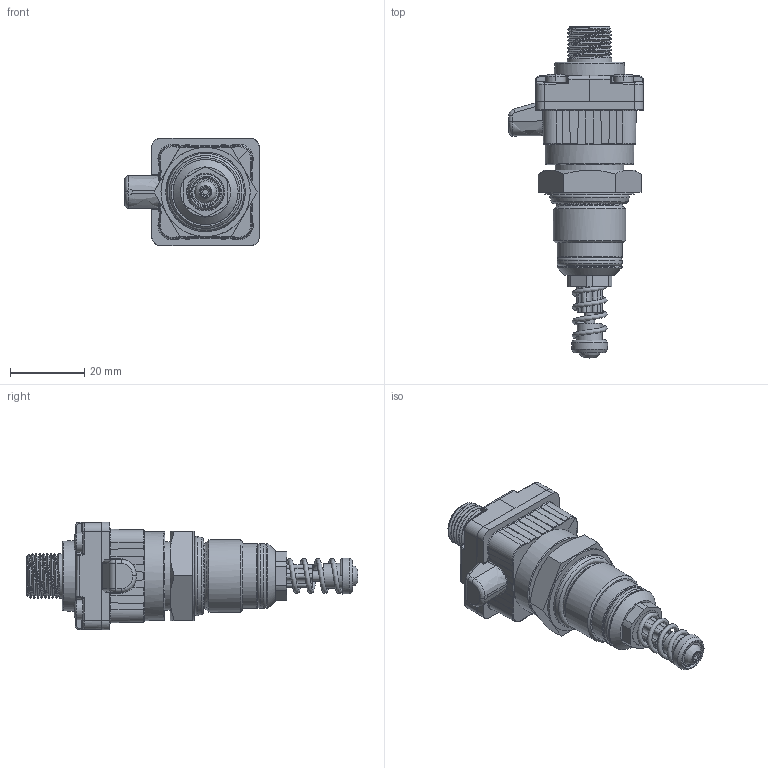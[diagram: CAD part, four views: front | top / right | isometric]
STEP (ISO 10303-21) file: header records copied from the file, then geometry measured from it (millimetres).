
FILE_DESCRIPTION((''),'2;1');
FILE_NAME('U:\Users\r.stiegele\30016900_DG062-40.stp', '2015-07-23T16:08:34',('User'),('SDRC'),'I-DEAS Master Series 9','UNIX', 'Yes');
FILE_SCHEMA(('AUTOMOTIVE_DESIGN { 1 0 10303 214 1 1 1 1 }'));
Length unit declared in the file: millimetre
Products named in the file (1): 30016900_DG062-40
Bounding box: 36.3 x 89.35 x 29 mm (x, y, z)
Volume: 28334 mm3; surface area: 10088.8 mm2
Topology: 17 solids, 17 shells, 1427 faces, 3743 edges, 2424 vertices
Faces by surface type: bspline 1427
Entity records: 59833 total; most frequent: CARTESIAN_POINT 37950, ORIENTED_EDGE 7434, EDGE_CURVE 3717, VERTEX_POINT 2414, B_SPLINE_CURVE_WITH_KNOTS 1811, EDGE_LOOP 1517, FACE_OUTER_BOUND 1422, ADVANCED_FACE 1422
